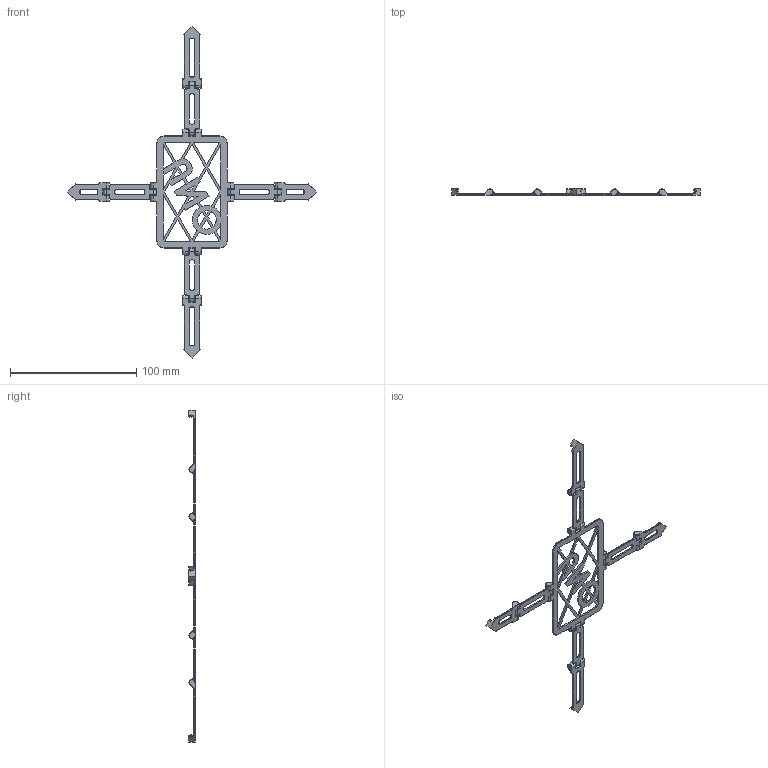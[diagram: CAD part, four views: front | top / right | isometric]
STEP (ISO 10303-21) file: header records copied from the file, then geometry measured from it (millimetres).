
FILE_DESCRIPTION (( 'STEP AP203' ), '1' );
FILE_NAME ('uno_case.STEP', '2021-02-10T21:56:46', ( '' ), ( '' ), 'SwSTEP 2.0', 'SolidWorks 2019', '' );
FILE_SCHEMA (( 'CONFIG_CONTROL_DESIGN' ));
Length unit declared in the file: millimetre
Products named in the file (7): uno_case3_3; uno_case3_2; uno_case3_4; uno_case3_1; uno_case2; uno_case1; uno_case
Assembly tree (9 placements, depth 2):
  uno_case
    uno_case1
    uno_case2  x4
    uno_case3_1
    uno_case3_2
    uno_case3_3
    uno_case3_4
Bounding box: 197.32 x 5.2 x 263.32 mm (x, y, z)
Volume: 9248.1 mm3; surface area: 16207.7 mm2
Topology: 9 solids, 9 shells, 1244 faces, 2982 edges, 1762 vertices
Faces by surface type: cylinder 427, torus 336, plane 292, bspline 109, cone 64, sphere 16
Entity records: 31484 total; most frequent: CARTESIAN_POINT 9838, DIRECTION 4515, ORIENTED_EDGE 4382, EDGE_CURVE 2191, AXIS2_PLACEMENT_3D 1773, VERTEX_POINT 1306, LINE 969, VECTOR 969
